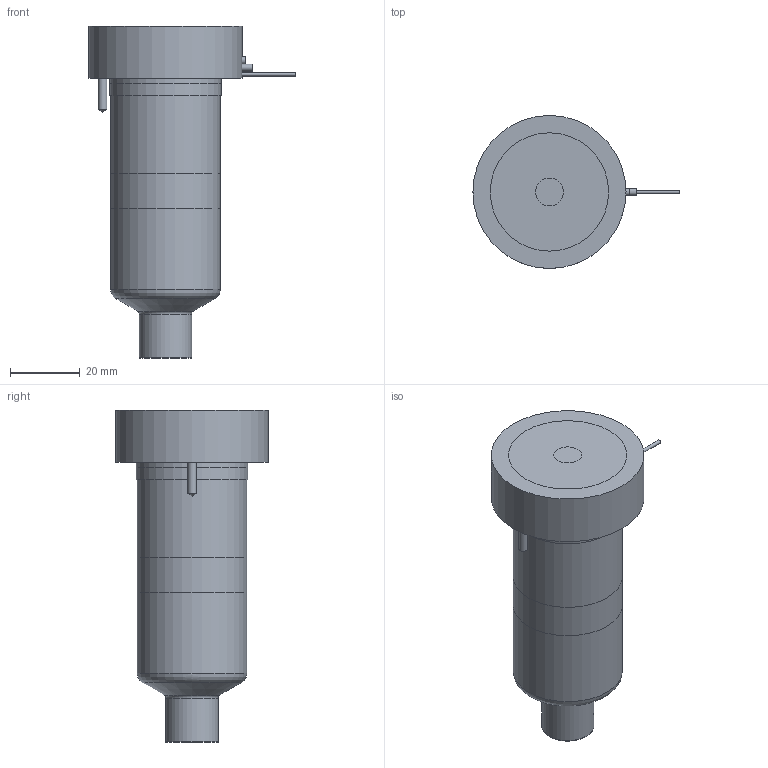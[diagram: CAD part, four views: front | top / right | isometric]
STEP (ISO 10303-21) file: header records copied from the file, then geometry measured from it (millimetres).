
FILE_DESCRIPTION(/* description */ (''),/* implementation_level */ '2;1');
FILE_NAME(/* name */ 'MXTSN-MXISN-MXOSN19075_200C_b',/* time_stamp */ '2007-01-18T09:51:23+13:00',/* author */ (''),/* organization */ (''),/* preprocessor_version */ 'ST-DEVELOPER v9',/* originating_system */ 'UGS - NX 4.0',/* authorisation */ '');
FILE_SCHEMA (('CONFIG_CONTROL_DESIGN'));
Length unit declared in the file: millimetre
Products named in the file (1): MXTSN-MXISN-MXOSN19075_200C_b
Bounding box: 59.25 x 44 x 95.41 mm (x, y, z)
Volume: 136062.9 mm3; surface area: 25653.8 mm2
Topology: 7 solids, 7 shells, 78 faces, 147 edges, 95 vertices
Faces by surface type: plane 35, cylinder 27, cone 8, torus 7, bspline 1
Full cylindrical faces by diameter (mm): 1 x3, 1.2 x1, 2 x2, 2.5 x2, 8 x1, 14.61 x1, 15.01 x2, 18.3 x1, 25.4 x1, 31.5 x2, 32 x2, 44 x1
Entity records: 1886 total; most frequent: CARTESIAN_POINT 376, DIRECTION 322, ORIENTED_EDGE 212, AXIS2_PLACEMENT_3D 148, EDGE_LOOP 122, EDGE_CURVE 106, VERTEX_POINT 87, ADVANCED_FACE 78
